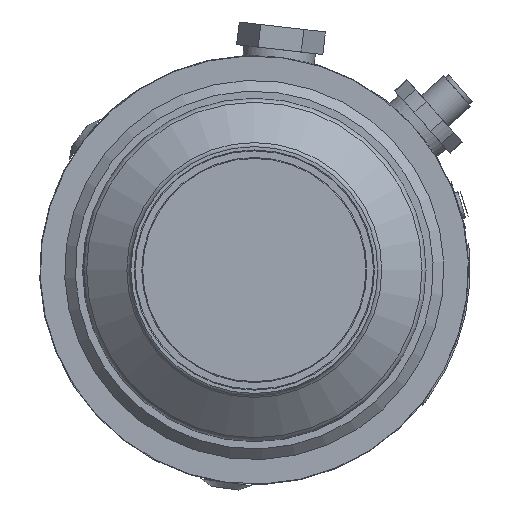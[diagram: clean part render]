
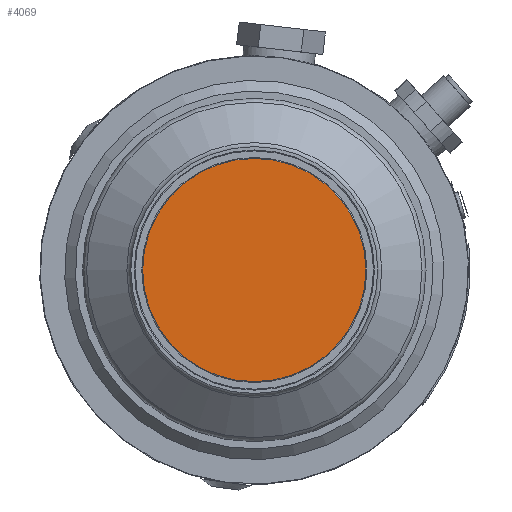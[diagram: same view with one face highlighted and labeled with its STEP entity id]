
A CAD part, front view. The second image highlights one B-rep face of the part: STEP entity #4069.
In plain terms, the highlighted planar face has unit normal (0, -1, 0).
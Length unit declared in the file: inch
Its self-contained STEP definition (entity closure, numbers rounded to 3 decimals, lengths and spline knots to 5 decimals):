
#140=PLANE('',#4394);
#292=FACE_OUTER_BOUND('',#571,.T.);
#571=EDGE_LOOP('',(#2780,#2781));
#1071=CIRCLE('',#4373,1.3);
#1072=CIRCLE('',#4374,1.3);
#1668=VERTEX_POINT('',#6190);
#1669=VERTEX_POINT('',#6192);
#2075=EDGE_CURVE('',#1668,#1669,#1071,.T.);
#2076=EDGE_CURVE('',#1669,#1668,#1072,.T.);
#2780=ORIENTED_EDGE('',*,*,#2076,.F.);
#2781=ORIENTED_EDGE('',*,*,#2075,.F.);
#4069=ADVANCED_FACE('',(#292),#140,.T.);
#4373=AXIS2_PLACEMENT_3D('',#6193,#4874,#4875);
#4374=AXIS2_PLACEMENT_3D('',#6194,#4876,#4877);
#4394=AXIS2_PLACEMENT_3D('',#6229,#4919,#4920);
#4874=DIRECTION('center_axis',(0.,1.,0.));
#4875=DIRECTION('ref_axis',(0.,0.,1.));
#4876=DIRECTION('center_axis',(0.,1.,0.));
#4877=DIRECTION('ref_axis',(0.,0.,1.));
#4919=DIRECTION('center_axis',(0.,-1.,0.));
#4920=DIRECTION('ref_axis',(0.,0.,-1.));
#6190=CARTESIAN_POINT('',(-2.7333,-3.27714,-1.46345));
#6192=CARTESIAN_POINT('',(-2.7333,-3.27714,1.13655));
#6193=CARTESIAN_POINT('Origin',(-2.7333,-3.27714,-0.16345));
#6194=CARTESIAN_POINT('Origin',(-2.7333,-3.27714,-0.16345));
#6229=CARTESIAN_POINT('Origin',(-2.7333,-3.27714,-0.16345));
